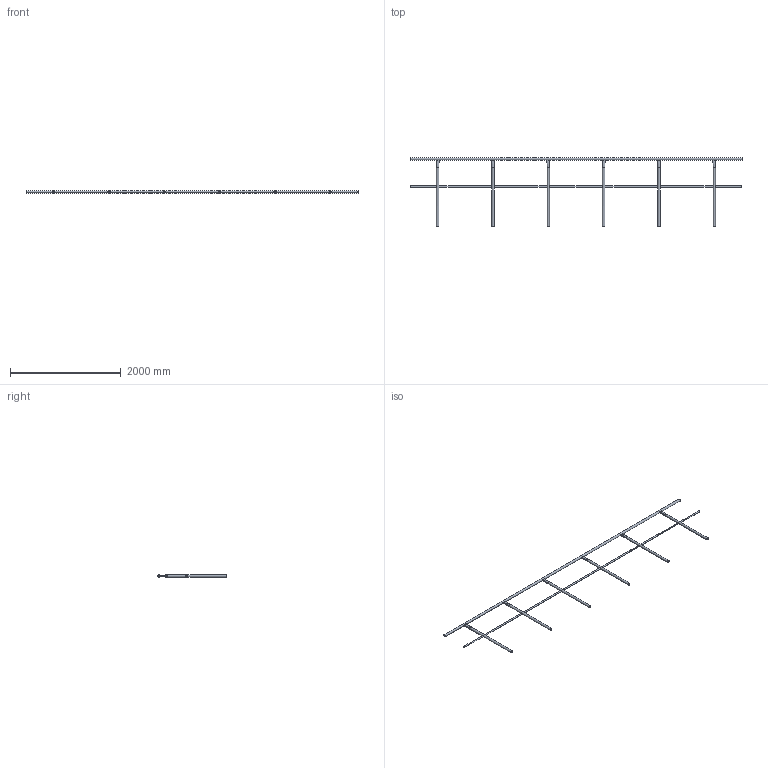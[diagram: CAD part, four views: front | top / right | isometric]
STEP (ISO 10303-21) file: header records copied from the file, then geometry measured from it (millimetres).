
FILE_DESCRIPTION((''),'2;1');
FILE_NAME('S:\Användarkataloger\AndreasA\Mina Inventor filer\Räcken\STEP\stormodul_ind_6000-1216.stp','2010-09-07T13:39:54',('AndreasA'),(''),'Autodesk Inventor 2011','Autodesk Inventor 2011','');
FILE_SCHEMA(('AUTOMOTIVE_DESIGN { 1 0 10303 214 1 1 1 1 }'));
Length unit declared in the file: millimetre
Products named in the file (5): stormodul_ind_6000-1216; handledare_stormodul_6000; stolpe_stormodul_1216; mellanliggare_stormodul_958; mellanliggare_stormodul_479
Assembly tree (14 placements, depth 2):
  stormodul_ind_6000-1216
    handledare_stormodul_6000
    stolpe_stormodul_1216  x6
    mellanliggare_stormodul_958  x5
    mellanliggare_stormodul_479  x2
Bounding box: 6000 x 1237.2 x 42.4 mm (x, y, z)
Volume: 4171760.1 mm3; surface area: 4178621.1 mm2
Topology: 14 solids, 14 shells, 116 faces, 324 edges, 236 vertices
Faces by surface type: bspline 48, cylinder 40, plane 28
Full cylindrical faces by diameter (mm): 10 x12, 21 x7, 25 x7, 38.4 x7, 42.4 x7
Entity records: 1672 total; most frequent: CARTESIAN_POINT 889, DIRECTION 144, ORIENTED_EDGE 104, AXIS2_PLACEMENT_3D 71, EDGE_CURVE 52, EDGE_LOOP 48, VERTEX_POINT 44, CIRCLE 34
